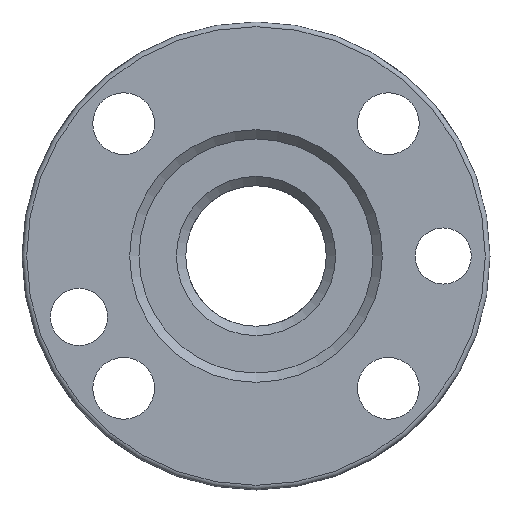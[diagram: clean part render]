
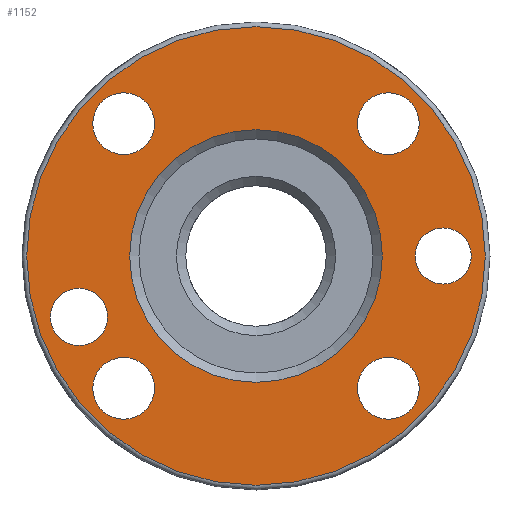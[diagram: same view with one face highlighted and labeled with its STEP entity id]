
A CAD part, front view. The second image highlights one B-rep face of the part: STEP entity #1152.
In plain terms, the highlighted planar face has unit normal (0, -1, 0).
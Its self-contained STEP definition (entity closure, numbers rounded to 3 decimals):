
#25=FACE_BOUND('',#150,.T.);
#26=FACE_BOUND('',#151,.T.);
#27=FACE_BOUND('',#152,.T.);
#28=FACE_BOUND('',#153,.T.);
#29=FACE_BOUND('',#154,.T.);
#30=FACE_BOUND('',#155,.T.);
#31=FACE_BOUND('',#156,.T.);
#49=PLANE('',#1270);
#86=FACE_OUTER_BOUND('',#149,.T.);
#149=EDGE_LOOP('',(#817));
#150=EDGE_LOOP('',(#818));
#151=EDGE_LOOP('',(#819));
#152=EDGE_LOOP('',(#820));
#153=EDGE_LOOP('',(#821));
#154=EDGE_LOOP('',(#822));
#155=EDGE_LOOP('',(#823));
#156=EDGE_LOOP('',(#824));
#237=CIRCLE('',#1268,24.5);
#239=CIRCLE('',#1271,13.5);
#240=CIRCLE('',#1272,3.);
#241=CIRCLE('',#1273,3.3);
#242=CIRCLE('',#1274,3.3);
#243=CIRCLE('',#1275,3.3);
#244=CIRCLE('',#1276,3.3);
#245=CIRCLE('',#1277,3.05);
#497=VERTEX_POINT('',#1921);
#498=VERTEX_POINT('',#1926);
#499=VERTEX_POINT('',#1928);
#500=VERTEX_POINT('',#1930);
#501=VERTEX_POINT('',#1932);
#502=VERTEX_POINT('',#1934);
#503=VERTEX_POINT('',#1936);
#504=VERTEX_POINT('',#1938);
#622=EDGE_CURVE('',#497,#497,#237,.T.);
#624=EDGE_CURVE('',#498,#498,#239,.T.);
#625=EDGE_CURVE('',#499,#499,#240,.T.);
#626=EDGE_CURVE('',#500,#500,#241,.T.);
#627=EDGE_CURVE('',#501,#501,#242,.T.);
#628=EDGE_CURVE('',#502,#502,#243,.T.);
#629=EDGE_CURVE('',#503,#503,#244,.T.);
#630=EDGE_CURVE('',#504,#504,#245,.T.);
#817=ORIENTED_EDGE('',*,*,#622,.F.);
#818=ORIENTED_EDGE('',*,*,#624,.F.);
#819=ORIENTED_EDGE('',*,*,#625,.T.);
#820=ORIENTED_EDGE('',*,*,#626,.T.);
#821=ORIENTED_EDGE('',*,*,#627,.T.);
#822=ORIENTED_EDGE('',*,*,#628,.T.);
#823=ORIENTED_EDGE('',*,*,#629,.T.);
#824=ORIENTED_EDGE('',*,*,#630,.T.);
#1152=ADVANCED_FACE('',(#86,#25,#26,#27,#28,#29,#30,#31),#49,.T.);
#1268=AXIS2_PLACEMENT_3D('',#1923,#1483,#1484);
#1270=AXIS2_PLACEMENT_3D('',#1925,#1487,#1488);
#1271=AXIS2_PLACEMENT_3D('',#1927,#1489,#1490);
#1272=AXIS2_PLACEMENT_3D('',#1929,#1491,#1492);
#1273=AXIS2_PLACEMENT_3D('',#1931,#1493,#1494);
#1274=AXIS2_PLACEMENT_3D('',#1933,#1495,#1496);
#1275=AXIS2_PLACEMENT_3D('',#1935,#1497,#1498);
#1276=AXIS2_PLACEMENT_3D('',#1937,#1499,#1500);
#1277=AXIS2_PLACEMENT_3D('',#1939,#1501,#1502);
#1483=DIRECTION('center_axis',(0.,1.,0.));
#1484=DIRECTION('ref_axis',(1.,0.,0.));
#1487=DIRECTION('center_axis',(0.,-1.,0.));
#1488=DIRECTION('ref_axis',(0.,0.,-1.));
#1489=DIRECTION('center_axis',(0.,-1.,0.));
#1490=DIRECTION('ref_axis',(1.,0.,0.));
#1491=DIRECTION('center_axis',(0.,1.,0.));
#1492=DIRECTION('ref_axis',(1.,0.,0.));
#1493=DIRECTION('center_axis',(0.,1.,0.));
#1494=DIRECTION('ref_axis',(1.,0.,0.));
#1495=DIRECTION('center_axis',(0.,1.,0.));
#1496=DIRECTION('ref_axis',(1.,0.,0.));
#1497=DIRECTION('center_axis',(0.,1.,0.));
#1498=DIRECTION('ref_axis',(1.,0.,0.));
#1499=DIRECTION('center_axis',(0.,1.,0.));
#1500=DIRECTION('ref_axis',(1.,0.,0.));
#1501=DIRECTION('center_axis',(0.,1.,0.));
#1502=DIRECTION('ref_axis',(1.,0.,0.));
#1921=CARTESIAN_POINT('',(0.,0.,-24.5));
#1923=CARTESIAN_POINT('Origin',(0.,0.,
0.));
#1925=CARTESIAN_POINT('Origin',(-18.75,0.,0.));
#1926=CARTESIAN_POINT('',(-13.5,0.,0.));
#1927=CARTESIAN_POINT('Origin',(0.,0.,
0.));
#1928=CARTESIAN_POINT('',(17.,0.,0.));
#1929=CARTESIAN_POINT('Origin',(20.,0.,0.));
#1930=CARTESIAN_POINT('',(-17.442,0.,-14.142));
#1931=CARTESIAN_POINT('Origin',(-14.142,0.,-14.142));
#1932=CARTESIAN_POINT('',(10.842,0.,-14.142));
#1933=CARTESIAN_POINT('Origin',(14.142,0.,-14.142));
#1934=CARTESIAN_POINT('',(10.842,0.,14.142));
#1935=CARTESIAN_POINT('Origin',(14.142,0.,14.142));
#1936=CARTESIAN_POINT('',(-17.442,0.,14.142));
#1937=CARTESIAN_POINT('Origin',(-14.142,0.,14.142));
#1938=CARTESIAN_POINT('',(-21.96,0.,-6.511));
#1939=CARTESIAN_POINT('Origin',(-18.91,0.,-6.511));
